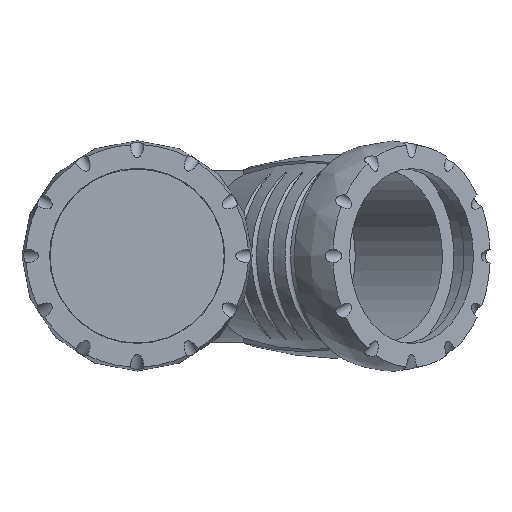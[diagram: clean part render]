
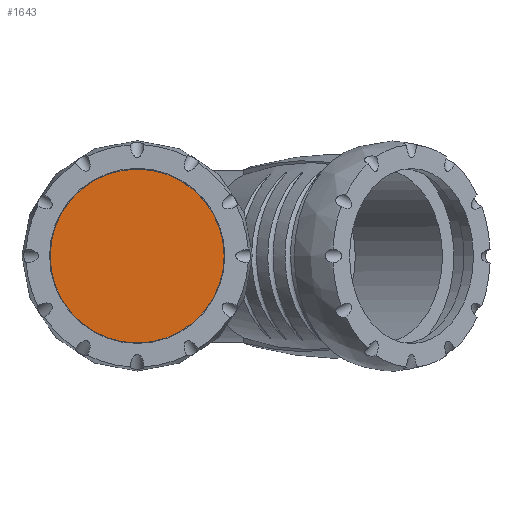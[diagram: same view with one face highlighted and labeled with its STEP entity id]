
A CAD part, top view. The second image highlights one B-rep face of the part: STEP entity #1643.
In plain terms, the highlighted planar face has unit normal (0, 0, 1).
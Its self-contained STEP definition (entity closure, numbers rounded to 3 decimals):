
#225=PLANE('',#1778);
#302=FACE_OUTER_BOUND('',#409,.T.);
#409=EDGE_LOOP('',(#1057));
#545=CIRCLE('',#1779,25.35);
#624=VERTEX_POINT('',#2344);
#802=EDGE_CURVE('',#624,#624,#545,.T.);
#1057=ORIENTED_EDGE('',*,*,#802,.T.);
#1643=ADVANCED_FACE('',(#302),#225,.T.);
#1778=AXIS2_PLACEMENT_3D('',#2343,#1983,#1984);
#1779=AXIS2_PLACEMENT_3D('',#2345,#1985,#1986);
#1983=DIRECTION('center_axis',(0.,0.,
1.));
#1984=DIRECTION('ref_axis',(0.,1.,0.));
#1985=DIRECTION('center_axis',(0.,0.,
1.));
#1986=DIRECTION('ref_axis',(0.,1.,0.));
#2343=CARTESIAN_POINT('Origin',(0.,0.,
131.5));
#2344=CARTESIAN_POINT('',(-25.35,0.,131.5));
#2345=CARTESIAN_POINT('Origin',(0.,0.,
131.5));
